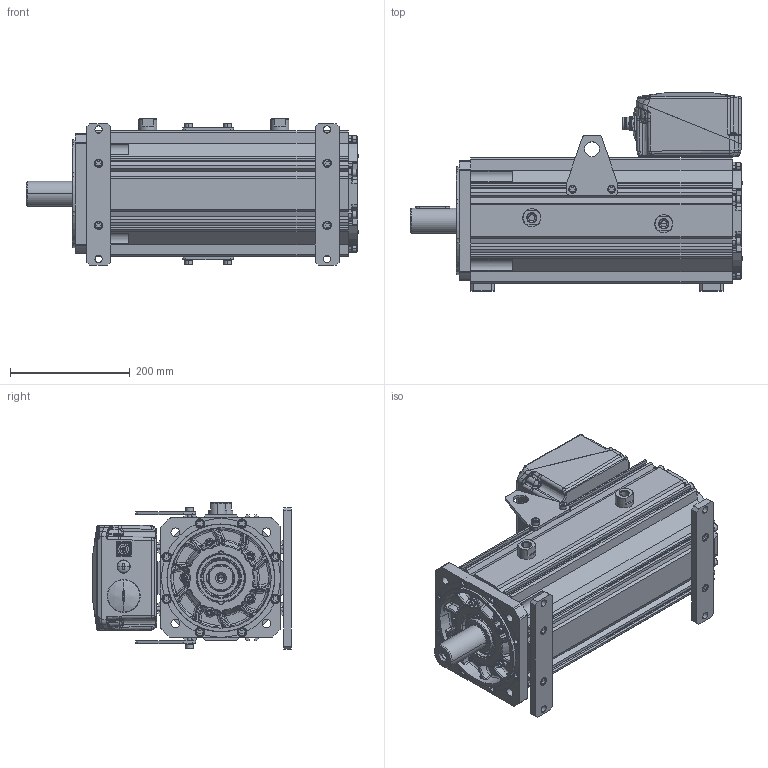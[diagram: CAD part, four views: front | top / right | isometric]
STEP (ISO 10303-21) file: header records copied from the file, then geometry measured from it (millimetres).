
FILE_DESCRIPTION((''),'2;1');
FILE_NAME('67981N-0_SW0001','2016-07-05T',('yanyerong'),(''),'PRO/ENGINEER BY PARAMETRIC TECHNOLOGY CORPORATION, 2010430','PRO/ENGINEER BY PARAMETRIC TECHNOLOGY CORPORATION, 2010430','');
FILE_SCHEMA(('CONFIG_CONTROL_DESIGN'));
Products named in the file (1): 67981N-0_SW0001
Bounding box: 553.5 x 330.5 x 243.64 mm (x, y, z)
Surface area: 1399879.9 mm2 (no closed solid volume)
Topology: 0 solids, 122 shells, 2522 faces, 7071 edges, 4605 vertices
Faces by surface type: plane 829, cylinder 603, bspline 499, torus 271, cone 260, sphere 60
Entity records: 122790 total; most frequent: CARTESIAN_POINT 61669, ORIENTED_EDGE 12522, DIRECTION 12093, EDGE_CURVE 7067, AXIS2_PLACEMENT_3D 4633, VERTEX_POINT 4605, VECTOR 2827, LINE 2827
